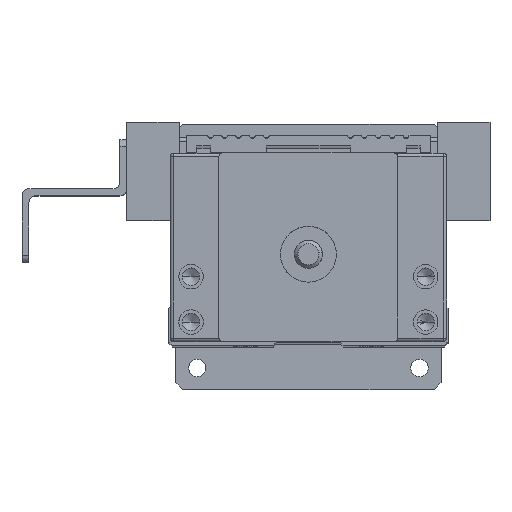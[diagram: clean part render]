
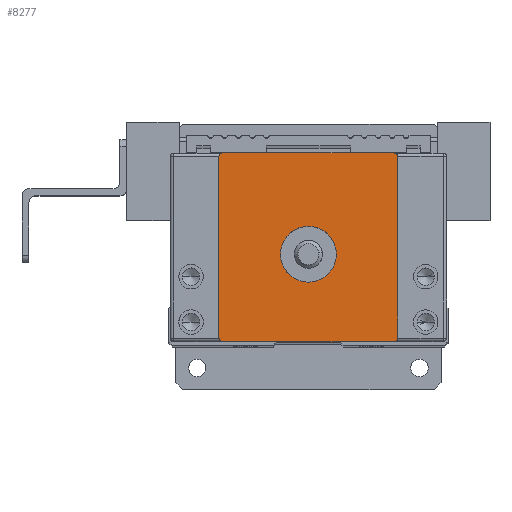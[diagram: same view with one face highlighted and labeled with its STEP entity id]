
A CAD part, top view. The second image highlights one B-rep face of the part: STEP entity #8277.
In plain terms, the highlighted planar face has unit normal (0, 0, 1).
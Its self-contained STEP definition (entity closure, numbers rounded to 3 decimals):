
#161 = LINE ( 'NONE', #3347, #18445 ) ;
#300 = DIRECTION ( 'NONE',  ( 1., 0., 0. ) ) ;
#374 = CARTESIAN_POINT ( 'NONE',  ( 12.3, -13., 10. ) ) ;
#441 = CARTESIAN_POINT ( 'NONE',  ( 19.8, 13.5, 10. ) ) ;
#478 = DIRECTION ( 'NONE',  ( -1., 0., 0. ) ) ;
#502 = DIRECTION ( 'NONE',  ( 0., 0., 1. ) ) ;
#948 = EDGE_CURVE ( 'NONE', #15478, #22134, #161, .T. ) ;
#1058 = ORIENTED_EDGE ( 'NONE', *, *, #6359, .T. ) ;
#1229 = EDGE_CURVE ( 'NONE', #22134, #21426, #17412, .T. ) ;
#1381 = EDGE_CURVE ( 'NONE', #15121, #17223, #11530, .T. ) ;
#1430 = CARTESIAN_POINT ( 'NONE',  ( -4., -1., 10. ) ) ;
#1447 = CARTESIAN_POINT ( 'NONE',  ( 12.8, -13., 10. ) ) ;
#1714 = CARTESIAN_POINT ( 'NONE',  ( 12.8, 0., 10. ) ) ;
#2200 = DIRECTION ( 'NONE',  ( 0., 0., -1. ) ) ;
#2577 = AXIS2_PLACEMENT_3D ( 'NONE', #23606, #10493, #25787 ) ;
#2600 = DIRECTION ( 'NONE',  ( 1., 0., 0. ) ) ;
#2718 = ORIENTED_EDGE ( 'NONE', *, *, #948, .T. ) ;
#2825 = AXIS2_PLACEMENT_3D ( 'NONE', #374, #15795, #2600 ) ;
#3317 = DIRECTION ( 'NONE',  ( 0., -1., 0. ) ) ;
#3347 = CARTESIAN_POINT ( 'NONE',  ( -12.8, 0., 10. ) ) ;
#3747 = CARTESIAN_POINT ( 'NONE',  ( -12.3, -13.5, 10. ) ) ;
#4028 = LINE ( 'NONE', #1714, #15037 ) ;
#4220 = CIRCLE ( 'NONE', #2825, 0.5 ) ;
#4718 = EDGE_CURVE ( 'NONE', #12748, #25904, #14798, .T. ) ;
#4850 = VERTEX_POINT ( 'NONE', #20077 ) ;
#5729 = ORIENTED_EDGE ( 'NONE', *, *, #4718, .T. ) ;
#6359 = EDGE_CURVE ( 'NONE', #8585, #4850, #4028, .T. ) ;
#7588 = AXIS2_PLACEMENT_3D ( 'NONE', #13714, #502, #15917 ) ;
#8017 = ORIENTED_EDGE ( 'NONE', *, *, #14282, .T. ) ;
#8277 = ADVANCED_FACE ( 'NONE', ( #16297, #17006 ), #15650, .T. ) ;
#8585 = VERTEX_POINT ( 'NONE', #1447 ) ;
#9077 = ORIENTED_EDGE ( 'NONE', *, *, #11027, .T. ) ;
#9089 = CARTESIAN_POINT ( 'NONE',  ( 0., 0., 10. ) ) ;
#9175 = CARTESIAN_POINT ( 'NONE',  ( -12.8, 13., 10. ) ) ;
#9599 = CARTESIAN_POINT ( 'NONE',  ( 0., -1., 10. ) ) ;
#10200 = ORIENTED_EDGE ( 'NONE', *, *, #1381, .T. ) ;
#10493 = DIRECTION ( 'NONE',  ( 0., 0., 1. ) ) ;
#10907 = CARTESIAN_POINT ( 'NONE',  ( -12.8, -13., 10. ) ) ;
#11027 = EDGE_CURVE ( 'NONE', #17223, #15478, #13689, .T. ) ;
#11530 = LINE ( 'NONE', #441, #22484 ) ;
#11837 = DIRECTION ( 'NONE',  ( 1., 0., 0. ) ) ;
#11952 = DIRECTION ( 'NONE',  ( 0., 0., 1. ) ) ;
#12721 = DIRECTION ( 'NONE',  ( 0., 1., 0. ) ) ;
#12748 = VERTEX_POINT ( 'NONE', #1430 ) ;
#13540 = DIRECTION ( 'NONE',  ( 0., 0., 1. ) ) ;
#13689 = CIRCLE ( 'NONE', #2577, 0.5 ) ;
#13714 = CARTESIAN_POINT ( 'NONE',  ( -12.3, -13., 10. ) ) ;
#14282 = EDGE_CURVE ( 'NONE', #23428, #8585, #4220, .T. ) ;
#14528 = CARTESIAN_POINT ( 'NONE',  ( 4., -1., 10. ) ) ;
#14798 = CIRCLE ( 'NONE', #18734, 4. ) ;
#15037 = VECTOR ( 'NONE', #12721, 1000. ) ;
#15121 = VERTEX_POINT ( 'NONE', #18636 ) ;
#15386 = CARTESIAN_POINT ( 'NONE',  ( 0., -1., 10. ) ) ;
#15478 = VERTEX_POINT ( 'NONE', #9175 ) ;
#15650 = PLANE ( 'NONE',  #21858 ) ;
#15744 = CARTESIAN_POINT ( 'NONE',  ( -12.3, 13.5, 10. ) ) ;
#15795 = DIRECTION ( 'NONE',  ( 0., 0., 1. ) ) ;
#15917 = DIRECTION ( 'NONE',  ( 1., 0., 0. ) ) ;
#16297 = FACE_BOUND ( 'NONE', #16957, .T. ) ;
#16747 = EDGE_CURVE ( 'NONE', #25904, #12748, #27078, .T. ) ;
#16957 = EDGE_LOOP ( 'NONE', ( #21078, #5729 ) ) ;
#17006 = FACE_OUTER_BOUND ( 'NONE', #28215, .T. ) ;
#17223 = VERTEX_POINT ( 'NONE', #15744 ) ;
#17412 = CIRCLE ( 'NONE', #7588, 0.5 ) ;
#17429 = LINE ( 'NONE', #28077, #22502 ) ;
#17607 = DIRECTION ( 'NONE',  ( 1., 0., 0. ) ) ;
#18445 = VECTOR ( 'NONE', #3317, 1000. ) ;
#18636 = CARTESIAN_POINT ( 'NONE',  ( 12.3, 13.5, 10. ) ) ;
#18734 = AXIS2_PLACEMENT_3D ( 'NONE', #15386, #2200, #17607 ) ;
#19097 = EDGE_CURVE ( 'NONE', #4850, #15121, #27010, .T. ) ;
#20077 = CARTESIAN_POINT ( 'NONE',  ( 12.8, 13., 10. ) ) ;
#21078 = ORIENTED_EDGE ( 'NONE', *, *, #16747, .T. ) ;
#21305 = AXIS2_PLACEMENT_3D ( 'NONE', #25020, #11952, #27261 ) ;
#21426 = VERTEX_POINT ( 'NONE', #3747 ) ;
#21559 = DIRECTION ( 'NONE',  ( 1., 0., 0. ) ) ;
#21804 = AXIS2_PLACEMENT_3D ( 'NONE', #9599, #24919, #11837 ) ;
#21858 = AXIS2_PLACEMENT_3D ( 'NONE', #9089, #13540, #300 ) ;
#22134 = VERTEX_POINT ( 'NONE', #10907 ) ;
#22484 = VECTOR ( 'NONE', #478, 1000. ) ;
#22502 = VECTOR ( 'NONE', #21559, 1000. ) ;
#23428 = VERTEX_POINT ( 'NONE', #27077 ) ;
#23606 = CARTESIAN_POINT ( 'NONE',  ( -12.3, 13., 10. ) ) ;
#24919 = DIRECTION ( 'NONE',  ( 0., 0., -1. ) ) ;
#25020 = CARTESIAN_POINT ( 'NONE',  ( 12.3, 13., 10. ) ) ;
#25053 = ORIENTED_EDGE ( 'NONE', *, *, #19097, .T. ) ;
#25787 = DIRECTION ( 'NONE',  ( 1., 0., 0. ) ) ;
#25904 = VERTEX_POINT ( 'NONE', #14528 ) ;
#26628 = EDGE_CURVE ( 'NONE', #21426, #23428, #17429, .T. ) ;
#27010 = CIRCLE ( 'NONE', #21305, 0.5 ) ;
#27077 = CARTESIAN_POINT ( 'NONE',  ( 12.3, -13.5, 10. ) ) ;
#27078 = CIRCLE ( 'NONE', #21804, 4. ) ;
#27261 = DIRECTION ( 'NONE',  ( 1., 0., 0. ) ) ;
#28077 = CARTESIAN_POINT ( 'NONE',  ( 19.8, -13.5, 10. ) ) ;
#28087 = ORIENTED_EDGE ( 'NONE', *, *, #26628, .T. ) ;
#28112 = ORIENTED_EDGE ( 'NONE', *, *, #1229, .T. ) ;
#28215 = EDGE_LOOP ( 'NONE', ( #10200, #9077, #2718, #28112, #28087, #8017, #1058, #25053 ) ) ;
